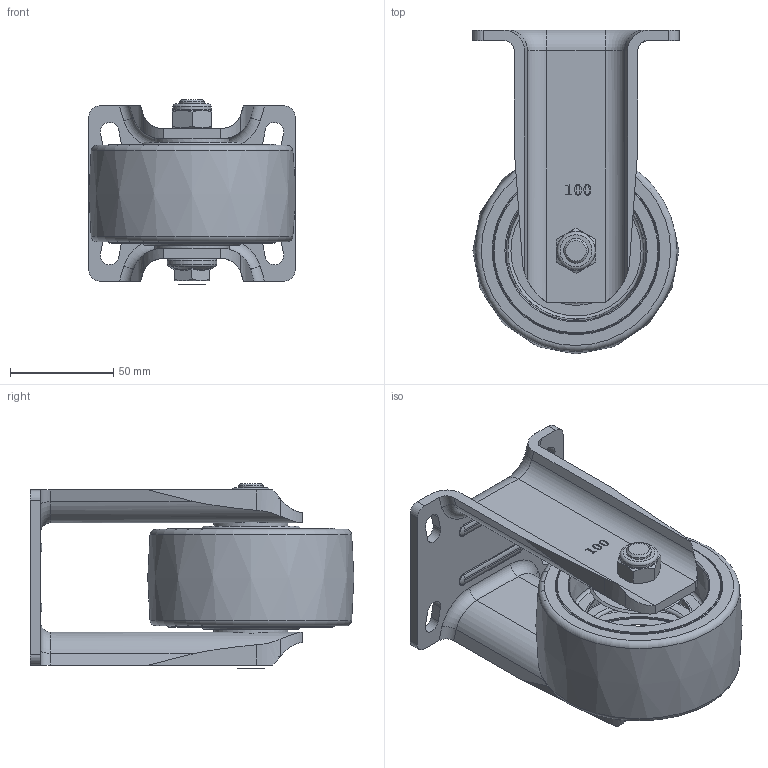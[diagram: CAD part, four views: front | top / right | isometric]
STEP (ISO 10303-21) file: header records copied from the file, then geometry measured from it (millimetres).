
FILE_DESCRIPTION(/* description */ (''),/* implementation_level */ '2;1');
FILE_NAME(/* name */ '\\192.168.10.38\지덕공유\1.기술연구소\1.도면\제품도면\1.양산품\10.PH-SERIES-OK\작성중\PH,PHS,GH-100-BSF _ 브레이크 부분 변경(130브라켓)관련 도면 모음(2D, 3D)\영업부전달_20230630\PH-100-ARF-MCD.stp',/* time_stamp */ '2023-06-30T17:16:50+09:00',/* author */ ('admin'),/* organization */ (''),/* preprocessor_version */ 'ST-DEVELOPER v18.1',/* originating_system */ 'Autodesk Inventor 2021',/* authorisation */ '');
FILE_SCHEMA (('AUTOMOTIVE_DESIGN { 1 0 10303 214 3 1 1 }'));
Length unit declared in the file: millimetre
Products named in the file (1): PH-100-ARF-MCD_Shrinkwrap_1
Bounding box: 100 x 157.08 x 89.5 mm (x, y, z)
Volume: 433594 mm3; surface area: 92178.5 mm2
Topology: 1 solids, 3 shells, 624 faces, 1675 edges, 1098 vertices
Faces by surface type: bspline 258, plane 250, cylinder 66, torus 30, cone 20
Full cylindrical faces by diameter (mm): 12 x2, 15.2 x1, 18.5 x1, 24 x1, 36 x2
Entity records: 21355 total; most frequent: CARTESIAN_POINT 7266, ORIENTED_EDGE 3350, DIRECTION 2079, EDGE_CURVE 1675, VERTEX_POINT 1098, LINE 893, VECTOR 893, EDGE_LOOP 677
